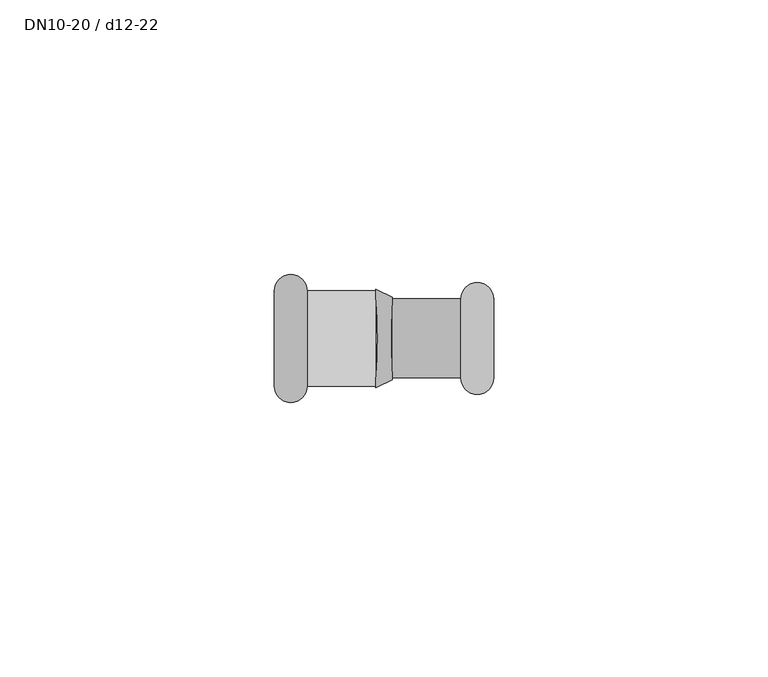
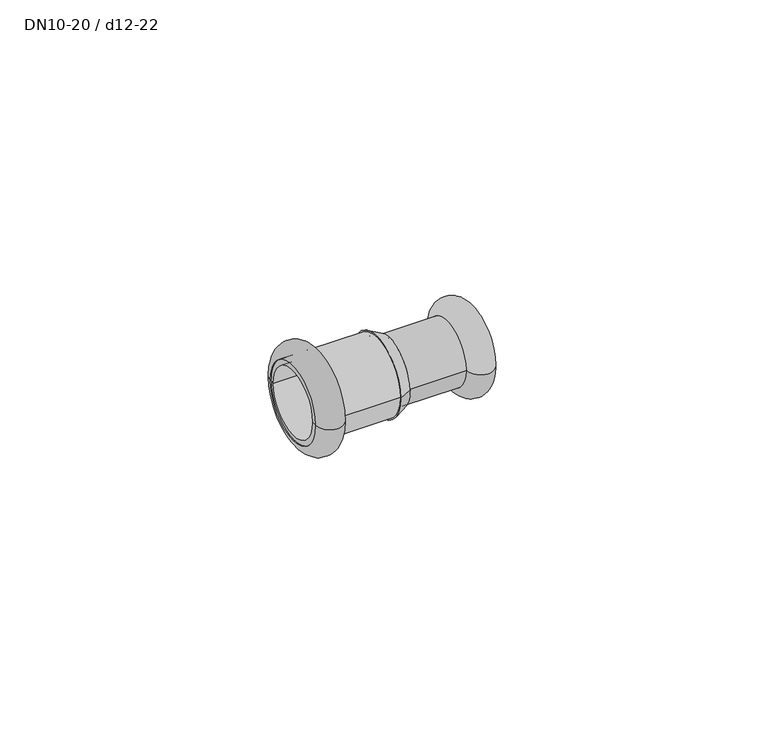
"""IFC4 building model written with IfcOpenShell, lengths in millimetres: pipe fitting geometry, NLRS_50_PIF_UN_Mapress koper verloopsok_geb : DN10-20 / d12-22."""

from ifc_helpers import new_model, si_unit, point, frame, origin, place, context, project, spatial, polyline, circle_curve, ellipse_curve, trimmed, source, transform, mapped, element, save
from ifc_brep_helpers import plane_surface, cylinder_surface, revolved_surface, advanced_brep


def dn10_20_d12_22_b3b4a3d3(model_context):
    return source(origin(), model_context, "Body", "AdvancedBrep", [
        advanced_brep(
        [(-20.0, 8.7, 0.0), (-20.0, -8.7, 0.0), (-13.9987073, -8.7, 0.0), (-13.9987073, 8.7, 0.0)],
        [
            (0, 1, circle_curve(frame((-20.0, 0.0, 0.0), z_axis=(-1.0, 0.0, 0.0), x_axis=(0.0, -1.0000000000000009, 0.0)), 8.7)),
            (1, 2),
            (2, 3, circle_curve(frame((-13.9987073, 0.0, 0.0), z_axis=(1.0, 0.0, 0.0), x_axis=(0.0, -1.0000000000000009, 0.0)), 8.7)),
            (3, 0),
            (1, 0, circle_curve(frame((-20.0, 0.0, 0.0), z_axis=(-1.0, 0.0, 0.0), x_axis=(0.0, -1.0000000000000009, 0.0)), 8.7)),
            (3, 2, circle_curve(frame((-13.9987073, 0.0, 0.0), z_axis=(1.0, 0.0, 0.0), x_axis=(0.0, -1.0000000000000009, 0.0)), 8.7)),
            (2, 1, circle_curve(frame((-16.9993536, -8.7, 0.0), z_axis=(0.0, 0.0, -1.0000000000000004), x_axis=(-1.0000000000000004, 0.0, 0.0)), 3.0006464)),
            (0, 3, circle_curve(frame((-16.9993536, 8.7, 0.0), z_axis=(0.0, 0.0, -1.0000000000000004), x_axis=(-1.0000000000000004, 0.0, 0.0)), 3.0006464)),
        ],
        [
            revolved_surface(polyline([(-13.99870730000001, -8.700000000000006, 0.0), (-20.000000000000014, -8.700000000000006, 0.0)]), (-1.5, 0.0, 0.0), (1.0000000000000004, 0.0, 0.0)),
            revolved_surface(trimmed(ellipse_curve(frame((-16.9993536, -8.7, 0.0), z_axis=(0.0, 0.0, 1.0000000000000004), x_axis=(-1.0000000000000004, 0.0, 0.0)), 3.0006464, 3.0006464), [point((-20.0, -8.7, 0.0))], [point((-13.9987073, -8.7, 0.0))], True, "CARTESIAN"), (-1.5, 0.0, 0.0), (1.0000000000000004, 0.0, 0.0)),
        ],
        [
            (0, [[1, 2, 3, 4]]),
            (0, [[5, -4, 6, -2]]),
            (1, [[-3, 7, -1, 8]]),
            (1, [[-6, -8, -5, -7]]),
        ],
    ),
        advanced_brep(
        [(-20.0, 7.5, 0.0), (-20.0, -7.5, 0.0), (-0.5, -7.5, 0.0), (-0.5, 7.5, 0.0), (-20.0, 8.7, 0.0), (-20.0, -8.7, 0.0), (-1.5, 8.7, 0.0), (-1.5, -8.7, 0.0)],
        [
            (0, 1, circle_curve(frame((-20.0, 0.0, 0.0), z_axis=(-1.0, 0.0, 0.0), x_axis=(0.0, -1.0000000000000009, 0.0)), 7.5)),
            (1, 2),
            (2, 3, circle_curve(frame((-0.5, 0.0, 0.0), z_axis=(1.0, 0.0, 0.0), x_axis=(0.0, -1.0000000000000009, 0.0)), 7.5)),
            (3, 0),
            (1, 0, circle_curve(frame((-20.0, 0.0, 0.0), z_axis=(-1.0, 0.0, 0.0), x_axis=(0.0, -1.0000000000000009, 0.0)), 7.5)),
            (3, 2, circle_curve(frame((-0.5, 0.0, 0.0), z_axis=(1.0, 0.0, 0.0), x_axis=(0.0, -1.0000000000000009, 0.0)), 7.5)),
            (4, 5, circle_curve(frame((-20.0, 0.0, 0.0), z_axis=(-1.0, 0.0, 0.0), x_axis=(0.0, -1.0000000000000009, 0.0)), 8.7)),
            (5, 1),
            (0, 4),
            (5, 4, circle_curve(frame((-20.0, 0.0, 0.0), z_axis=(-1.0, 0.0, 0.0), x_axis=(0.0, -1.0000000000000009, 0.0)), 8.7)),
            (6, 7, circle_curve(frame((-1.5, 0.0, 0.0), z_axis=(-1.0, 0.0, 0.0), x_axis=(0.0, -1.0000000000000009, 0.0)), 8.7)),
            (7, 5),
            (4, 6),
            (7, 6, circle_curve(frame((-1.5, 0.0, 0.0), z_axis=(-1.0, 0.0, 0.0), x_axis=(0.0, -1.0000000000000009, 0.0)), 8.7)),
            (2, 7),
            (6, 3),
        ],
        [
            revolved_surface(polyline([(-0.4999999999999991, -7.500000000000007, 0.0), (-20.000000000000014, -7.500000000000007, 0.0)]), (-1.5, 0.0, 0.0), (1.0000000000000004, 0.0, 0.0)),
            plane_surface(frame((-20.0, 0.0, 0.0), z_axis=(-1.0, 0.0, 0.0), x_axis=(0.0, -1.0, 0.0))),
            cylinder_surface(frame((-1.5, 0.0, 0.0), z_axis=(1.0000000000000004, 0.0, 0.0), x_axis=(0.0, -1.0000000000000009, 0.0)), 8.7),
            revolved_surface(polyline([(-1.5, -8.7, 0.0), (-0.5, -7.5, 0.0)]), (-1.5, 0.0, 0.0), (1.0000000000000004, 0.0, 0.0)),
        ],
        [
            (0, [[1, 2, 3, 4]]),
            (0, [[5, -4, 6, -2]]),
            (1, [[7, 8, -1, 9]]),
            (1, [[10, -9, -5, -8]]),
            (2, [[11, 12, -7, 13]]),
            (2, [[14, -13, -10, -12]]),
            (3, [[-3, 15, -11, 16]]),
            (3, [[-6, -16, -14, -15]]),
        ],
    ),
        advanced_brep(
        [(20.0, -7.2, 0.0), (20.0, 7.2, 0.0), (13.9987073, 7.2, 0.0), (13.9987073, -7.2, 0.0)],
        [
            (0, 1, circle_curve(frame((20.0, 0.0, 0.0), z_axis=(1.0, 0.0, 0.0), x_axis=(0.0, 1.0, 0.0)), 7.2)),
            (1, 2),
            (2, 3, circle_curve(frame((13.9987073, 0.0, 0.0), z_axis=(-1.0, 0.0, 0.0), x_axis=(0.0, 1.0, 0.0)), 7.2)),
            (3, 0),
            (1, 0, circle_curve(frame((20.0, 0.0, 0.0), z_axis=(1.0, 0.0, 0.0), x_axis=(0.0, 1.0, 0.0)), 7.2)),
            (3, 2, circle_curve(frame((13.9987073, 0.0, 0.0), z_axis=(-1.0, 0.0, 0.0), x_axis=(0.0, 1.0, 0.0)), 7.2)),
            (2, 1, circle_curve(frame((16.9993536, 7.2, 0.0), z_axis=(0.0, 0.0, -1.0), x_axis=(1.0, 0.0, 0.0)), 3.0006464)),
            (0, 3, circle_curve(frame((16.9993536, -7.2, 0.0), z_axis=(0.0, 0.0, -1.0), x_axis=(1.0, 0.0, 0.0)), 3.0006464)),
        ],
        [
            revolved_surface(polyline([(13.9987073, 7.2, 0.0), (20.0, 7.2, 0.0)]), (1.5, 0.0, 0.0), (-1.0, 0.0, 0.0)),
            revolved_surface(trimmed(ellipse_curve(frame((16.9993536, 7.2, 0.0), z_axis=(0.0, 0.0, 1.0), x_axis=(1.0, 0.0, 0.0)), 3.0006464, 3.0006464), [point((20.0, 7.2, 0.0))], [point((13.9987073, 7.2, 0.0))], True, "CARTESIAN"), (1.5, 0.0, 0.0), (-1.0, 0.0, 0.0)),
        ],
        [
            (0, [[1, 2, 3, 4]]),
            (0, [[5, -4, 6, -2]]),
            (1, [[-3, 7, -1, 8]]),
            (1, [[-6, -8, -5, -7]]),
        ],
    ),
        advanced_brep(
        [(20.0, -6.0, 0.0), (20.0, 6.0, 0.0), (0.5, 6.0, 0.0), (0.5, -6.0, 0.0), (20.0, -7.2, 0.0), (20.0, 7.2, 0.0), (1.5, -7.2, 0.0), (1.5, 7.2, 0.0)],
        [
            (0, 1, circle_curve(frame((20.0, 0.0, 0.0), z_axis=(1.0, 0.0, 0.0), x_axis=(0.0, 1.0, 0.0)), 6.0)),
            (1, 2),
            (2, 3, circle_curve(frame((0.5, 0.0, 0.0), z_axis=(-1.0, 0.0, 0.0), x_axis=(0.0, 1.0, 0.0)), 6.0)),
            (3, 0),
            (1, 0, circle_curve(frame((20.0, 0.0, 0.0), z_axis=(1.0, 0.0, 0.0), x_axis=(0.0, 1.0, 0.0)), 6.0)),
            (3, 2, circle_curve(frame((0.5, 0.0, 0.0), z_axis=(-1.0, 0.0, 0.0), x_axis=(0.0, 1.0, 0.0)), 6.0)),
            (4, 5, circle_curve(frame((20.0, 0.0, 0.0), z_axis=(1.0, 0.0, 0.0), x_axis=(0.0, 1.0, 0.0)), 7.2)),
            (5, 1),
            (0, 4),
            (5, 4, circle_curve(frame((20.0, 0.0, 0.0), z_axis=(1.0, 0.0, 0.0), x_axis=(0.0, 1.0, 0.0)), 7.2)),
            (6, 7, circle_curve(frame((1.5, 0.0, 0.0), z_axis=(1.0, 0.0, 0.0), x_axis=(0.0, 1.0, 0.0)), 7.2)),
            (7, 5),
            (4, 6),
            (7, 6, circle_curve(frame((1.5, 0.0, 0.0), z_axis=(1.0, 0.0, 0.0), x_axis=(0.0, 1.0, 0.0)), 7.2)),
            (2, 7),
            (6, 3),
        ],
        [
            revolved_surface(polyline([(0.5, 6.0, 0.0), (20.0, 6.0, 0.0)]), (1.5, 0.0, 0.0), (-1.0, 0.0, 0.0)),
            plane_surface(frame((20.0, 0.0, 0.0), z_axis=(1.0, 0.0, 0.0), x_axis=(0.0, 1.0, 0.0))),
            cylinder_surface(frame((1.5, 0.0, 0.0), z_axis=(-1.0, 0.0, 0.0), x_axis=(0.0, 1.0, 0.0)), 7.2),
            revolved_surface(polyline([(1.5, 7.2, 0.0), (0.5, 6.0, 0.0)]), (1.5, 0.0, 0.0), (-1.0, 0.0, 0.0)),
        ],
        [
            (0, [[1, 2, 3, 4]]),
            (0, [[5, -4, 6, -2]]),
            (1, [[7, 8, -1, 9]]),
            (1, [[10, -9, -5, -8]]),
            (2, [[11, 12, -7, 13]]),
            (2, [[14, -13, -10, -12]]),
            (3, [[-3, 15, -11, 16]]),
            (3, [[-6, -16, -14, -15]]),
        ],
    ),
        advanced_brep(
        [(1.5, -7.5, 0.0), (1.5, 7.5, 0.0), (-1.5, -9.0, 0.0), (-1.5, 9.0, 0.0)],
        [
            (0, 1, circle_curve(frame((1.5, 0.0, 0.0), z_axis=(1.0, 0.0, 0.0), x_axis=(0.0, -1.0, 0.0)), 7.5)),
            (1, 0, circle_curve(frame((1.5, 0.0, 0.0), z_axis=(1.0, 0.0, 0.0), x_axis=(0.0, 1.0, 0.0)), 7.5)),
            (2, 3, circle_curve(frame((-1.5, 0.0, 0.0), z_axis=(-1.0, 0.0, 0.0), x_axis=(0.0, 1.0, 0.0)), 9.0)),
            (3, 2, circle_curve(frame((-1.5, 0.0, 0.0), z_axis=(-1.0, 0.0, 0.0), x_axis=(0.0, -1.0, 0.0)), 9.0)),
            (3, 1),
            (0, 2),
        ],
        [
            plane_surface(frame((1.5, 0.0, 0.0), z_axis=(1.0, 0.0, 0.0), x_axis=(0.0, 0.0, -1.0))),
            plane_surface(frame((-1.5, 0.0, 0.0), z_axis=(-1.0, 0.0, 0.0), x_axis=(0.0, 0.0, -1.0))),
            revolved_surface(polyline([(1.5, -7.5, 0.0), (-1.5, -9.0, 0.0)]), (16.5, 0.0, 0.0), (-1.0, 0.0, 0.0)),
            revolved_surface(polyline([(1.5, 7.5, 0.0), (-1.5, 9.0, 0.0)]), (16.5, 0.0, 0.0), (-1.0, 0.0, 0.0)),
        ],
        [
            (0, [[1, 2]]),
            (1, [[3, 4]]),
            (2, [[-4, 5, -1, 6]]),
            (3, [[-3, -6, -2, -5]]),
        ],
    ),
    ])


if __name__ == "__main__":
    model = new_model("IFC4")
    model_context = context("Model", 3, world=origin())
    ifc_project = project(units=[si_unit("LENGTHUNIT", "METRE", prefix="MILLI")], contexts=[model_context])
    site = spatial("IfcSite", under=ifc_project)
    building = spatial("IfcBuilding", under=site)
    placement = place(None, origin())
    dn10_20_d12_22_shape = dn10_20_d12_22_b3b4a3d3(model_context)
    element("IfcPipeFitting", 1, ObjectType="NLRS_50_PIF_UN_Mapress koper verloopsok_geb : DN10-20 / d12-22", at=placement, inside=building, context=model_context, shape_type="MappedRepresentation", body=[
        mapped(dn10_20_d12_22_shape, transform((0.0, 0.0, 0.0), x_axis=(1.0, 0.0, 0.0), y_axis=(0.0, 1.0, 0.0), z_axis=(0.0, 0.0, 1.0))),
    ])
    save(model, "model.ifc")
